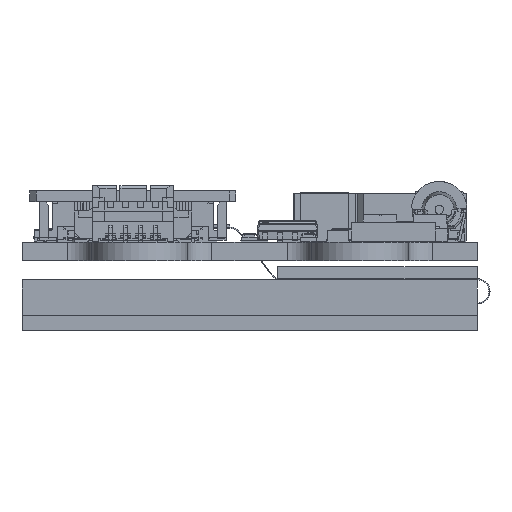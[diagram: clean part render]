
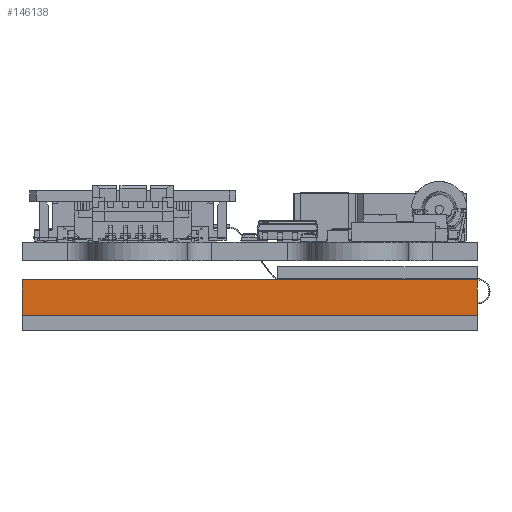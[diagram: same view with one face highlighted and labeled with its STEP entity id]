
A CAD part, left-side view. The second image highlights one B-rep face of the part: STEP entity #146138.
In plain terms, the highlighted planar face has unit normal (-1, 0, 0) as drawn and (1, 0, 0) by its records, which use the part's own axes.
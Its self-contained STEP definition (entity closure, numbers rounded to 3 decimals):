
#4215 = VERTEX_POINT ( 'NONE', #59437 ) ;
#4268 = ORIENTED_EDGE ( 'NONE', *, *, #76899, .T. ) ;
#4737 = ORIENTED_EDGE ( 'NONE', *, *, #49159, .F. ) ;
#20837 = DIRECTION ( 'NONE',  ( 0., 0., -1. ) ) ;
#35579 = FACE_OUTER_BOUND ( 'NONE', #89720, .T. ) ;
#39114 = VECTOR ( 'NONE', #20837, 1000. ) ;
#43447 = ORIENTED_EDGE ( 'NONE', *, *, #122878, .F. ) ;
#47099 = VERTEX_POINT ( 'NONE', #63855 ) ;
#49159 = EDGE_CURVE ( 'NONE', #90418, #47099, #141075, .T. ) ;
#50818 = CARTESIAN_POINT ( 'NONE',  ( 52.75, 18.9, 0. ) ) ;
#53788 = VECTOR ( 'NONE', #101464, 1000. ) ;
#57743 = VECTOR ( 'NONE', #105048, 1000. ) ;
#59437 = CARTESIAN_POINT ( 'NONE',  ( 52.75, -18.9, 0. ) ) ;
#60609 = DIRECTION ( 'NONE',  ( 0., -1., 0. ) ) ;
#61200 = VECTOR ( 'NONE', #78163, 1000. ) ;
#63855 = CARTESIAN_POINT ( 'NONE',  ( 52.75, 18.9, 2.95 ) ) ;
#67079 = LINE ( 'NONE', #138257, #53788 ) ;
#76405 = EDGE_CURVE ( 'NONE', #4215, #87777, #100125, .T. ) ;
#76899 = EDGE_CURVE ( 'NONE', #90418, #4215, #67079, .T. ) ;
#78163 = DIRECTION ( 'NONE',  ( 0., 1., 0. ) ) ;
#78685 = LINE ( 'NONE', #141271, #39114 ) ;
#87777 = VERTEX_POINT ( 'NONE', #50818 ) ;
#88042 = CARTESIAN_POINT ( 'NONE',  ( 52.75, -18.9, 2.95 ) ) ;
#89720 = EDGE_LOOP ( 'NONE', ( #103906, #43447, #4737, #4268 ) ) ;
#90418 = VERTEX_POINT ( 'NONE', #88042 ) ;
#96607 = PLANE ( 'NONE',  #100220 ) ;
#100125 = LINE ( 'NONE', #148652, #61200 ) ;
#100220 = AXIS2_PLACEMENT_3D ( 'NONE', #144327, #131822, #60609 ) ;
#101464 = DIRECTION ( 'NONE',  ( 0., 0., -1. ) ) ;
#103906 = ORIENTED_EDGE ( 'NONE', *, *, #76405, .T. ) ;
#105048 = DIRECTION ( 'NONE',  ( 0., 1., 0. ) ) ;
#122878 = EDGE_CURVE ( 'NONE', #47099, #87777, #78685, .T. ) ;
#131822 = DIRECTION ( 'NONE',  ( -1., 0., 0. ) ) ;
#138257 = CARTESIAN_POINT ( 'NONE',  ( 52.75, -18.9, 2.95 ) ) ;
#139540 = CARTESIAN_POINT ( 'NONE',  ( 52.75, 18.9, 2.95 ) ) ;
#141075 = LINE ( 'NONE', #139540, #57743 ) ;
#141271 = CARTESIAN_POINT ( 'NONE',  ( 52.75, 18.9, 2.95 ) ) ;
#144327 = CARTESIAN_POINT ( 'NONE',  ( 52.75, 18.9, 2.95 ) ) ;
#146138 = ADVANCED_FACE ( 'NONE', ( #35579 ), #96607, .F. ) ;
#148652 = CARTESIAN_POINT ( 'NONE',  ( 52.75, 18.9, 0. ) ) ;
